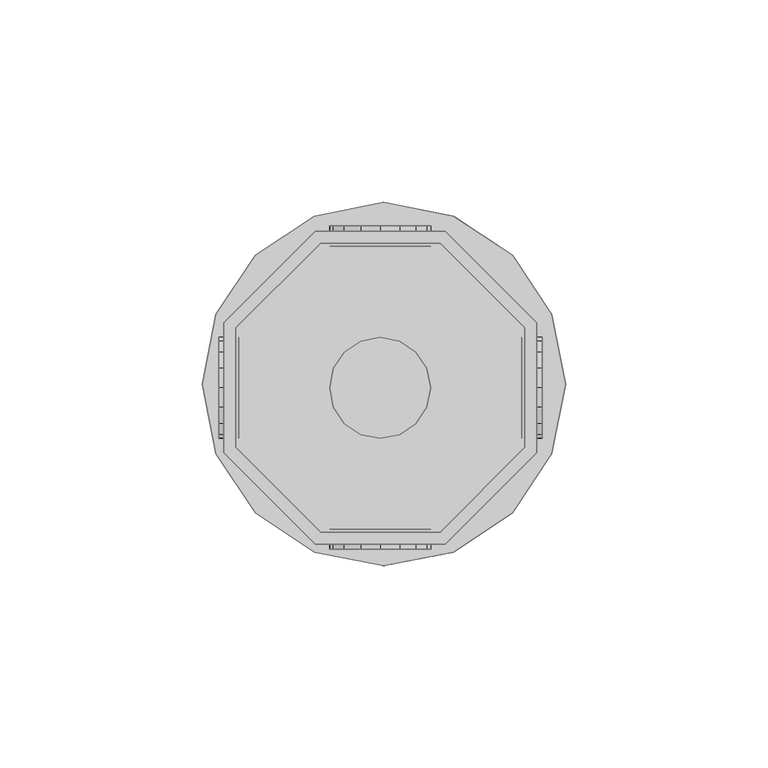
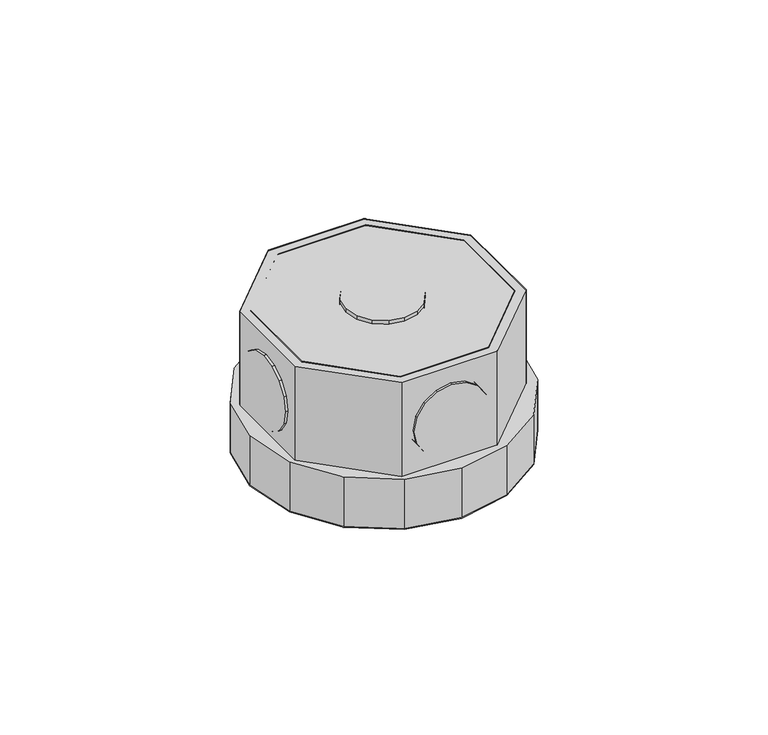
"""IFC4 building model written with IfcOpenShell, lengths in millimetres: light fixture geometry,  213512 :  213512."""

from ifc_helpers import new_model, si_unit, origin, place, context, project, spatial, triangles, source, transform, mapped, element, save


def light_fixture_797a8d72(model_context):
    return source(origin(), model_context, "Body", "Tessellation", [
        triangles([(12051.6004303, 16612.0999695, 2924.5999741), (12051.6004303, 16582.4994507, 2975.400071), (12051.6004303, 16582.4994507, 2924.5999741), (12051.6004303, 16612.0999695, 2975.400071), (12126.1005341, 16613.2998962, 2924.5999741), (12126.1005341, 16581.19953, 2975.400071), (12126.1005341, 16581.19953, 2924.5999741), (12126.1005341, 16613.2998962, 2975.400071), (12072.6003113, 16561.4995697, 2975.400071), (12072.6003113, 16561.4995697, 2924.5999741), (12103.3995941, 16635.9996735, 2924.5999741), (12103.3995941, 16635.9996735, 2975.400071), (12102.1996674, 16561.4995697, 2975.400071), (12102.1996674, 16561.4995697, 2924.5999741), (12071.3003906, 16635.9996735, 2924.5999741), (12071.3003906, 16635.9996735, 2975.400071), (12123.0995544, 16582.4994507, 2975.400071), (12123.0995544, 16582.4994507, 2924.5999741), (12048.5994507, 16613.2998962, 2924.5999741), (12048.5994507, 16613.2998962, 2975.400071), (12123.0995544, 16612.0999695, 2924.5999741), (12123.0995544, 16612.0999695, 2975.400071), (12048.5994507, 16581.19953, 2975.400071), (12048.5994507, 16581.19953, 2924.5999741), (12102.1996674, 16632.9998566, 2924.5999741), (12102.1996674, 16632.9998566, 2975.400071), (12071.3003906, 16558.4997528, 2975.400071), (12071.3003906, 16558.4997528, 2924.5999741), (12103.3995941, 16558.4997528, 2975.400071), (12072.6003113, 16632.9998566, 2975.400071), (12072.6003113, 16632.9998566, 2924.5999741), (12103.3995941, 16558.4997528, 2924.5999741), (12102.1996674, 16561.4995697, 2972.3999634), (12123.0995544, 16582.4994507, 2972.3999634), (12123.0995544, 16612.0999695, 2972.3999634), (12102.1996674, 16632.9998566, 2972.3999634), (12072.6003113, 16632.9998566, 2972.3999634), (12051.6004303, 16612.0999695, 2972.3999634), (12051.6004303, 16582.4994507, 2972.3999634), (12072.6003113, 16561.4995697, 2972.3999634), (12071.3003906, 16558.4997528, 2942.4000504), (12048.5994507, 16581.19953, 2942.4000504), (12048.5994507, 16613.2998962, 2942.4000504), (12071.3003906, 16635.9996735, 2942.4000504), (12103.3995941, 16635.9996735, 2942.4000504), (12126.1005341, 16613.2998962, 2942.4000504), (12126.1005341, 16581.19953, 2942.4000504), (12103.3995941, 16558.4997528, 2942.4000504), (12129.8003082, 16580.8995483, 2942.4000504), (12105.4994659, 16556.5998688, 2942.4000504), (12120.0997375, 16566.3004395, 2942.4000504), (12088.3005157, 16553.2000763, 2942.4000504), (12071.0004089, 16556.5998688, 2942.4000504), (12056.4001373, 16566.3004395, 2942.4000504), (12046.6995667, 16580.8995483, 2942.4000504), (12043.2997742, 16598.1996552, 2942.4000504), (12046.6995667, 16615.3997681, 2942.4000504), (12071.0004089, 16639.6994476, 2942.4000504), (12056.4001373, 16630.0000397, 2942.4000504), (12133.3000946, 16598.1996552, 2942.4000504), (12129.8003082, 16615.3997681, 2942.4000504), (12120.0997375, 16630.0000397, 2942.4000504), (12105.4994659, 16639.6994476, 2942.4000504), (12088.3005157, 16643.2003967, 2942.4000504), (12105.4994659, 16556.5998688, 2924.5999741), (12129.8003082, 16580.8995483, 2924.5999741), (12120.0997375, 16566.3004395, 2924.5999741), (12088.3005157, 16553.2000763, 2924.5999741), (12071.0004089, 16556.5998688, 2924.5999741), (12056.4001373, 16566.3004395, 2924.5999741), (12046.6995667, 16580.8995483, 2924.5999741), (12043.2997742, 16598.1996552, 2924.5999741), (12046.6995667, 16615.3997681, 2924.5999741), (12071.0004089, 16639.6994476, 2924.5999741), (12056.4001373, 16630.0000397, 2924.5999741), (12133.3000946, 16598.1996552, 2924.5999741), (12129.8003082, 16615.3997681, 2924.5999741), (12120.0997375, 16630.0000397, 2924.5999741), (12105.4994659, 16639.6994476, 2924.5999741), (12088.3005157, 16643.2003967, 2924.5999741), (12047.3995239, 16585.7004181, 2952.6000092), (12047.3995239, 16592.5000031, 2945.9001274), (12047.3995239, 16588.4002533, 2948.5999626), (12047.3995239, 16584.800473, 2957.4000069), (12047.3995239, 16597.2997101, 2944.8998978), (12047.3995239, 16585.7004181, 2962.2000046), (12047.3995239, 16602.1005798, 2945.9001274), (12047.3995239, 16588.4002533, 2966.2000511), (12047.3995239, 16606.1003357, 2948.5999626), (12047.3995239, 16592.5000031, 2968.8998863), (12047.3995239, 16608.8001709, 2952.6000092), (12047.3995239, 16597.2997101, 2969.900116), (12047.3995239, 16609.8001099, 2957.4000069), (12047.3995239, 16602.1005798, 2968.8998863), (12047.3995239, 16608.8001709, 2962.2000046), (12047.3995239, 16606.1003357, 2966.2000511), (12052.4003815, 16592.5000031, 2945.9001274), (12052.4003815, 16585.7004181, 2952.6000092), (12052.4003815, 16588.4002533, 2948.5999626), (12052.4003815, 16597.2997101, 2944.8998978), (12052.4003815, 16584.800473, 2957.4000069), (12052.4003815, 16602.1005798, 2945.9001274), (12052.4003815, 16585.7004181, 2962.2000046), (12052.4003815, 16606.1003357, 2948.5999626), (12052.4003815, 16588.4002533, 2966.2000511), (12052.4003815, 16592.5000031, 2968.8998863), (12052.4003815, 16608.8001709, 2952.6000092), (12052.4003815, 16597.2997101, 2969.900116), (12052.4003815, 16609.8001099, 2957.4000069), (12052.4003815, 16602.1005798, 2968.8998863), (12052.4003815, 16608.8001709, 2962.2000046), (12052.4003815, 16606.1003357, 2966.2000511), (12122.3995972, 16585.7004181, 2952.6000092), (12122.3995972, 16592.5000031, 2945.9001274), (12122.3995972, 16588.4002533, 2948.5999626), (12122.3995972, 16584.800473, 2957.4000069), (12122.3995972, 16597.2997101, 2944.8998978), (12122.3995972, 16585.7004181, 2962.2000046), (12122.3995972, 16602.1005798, 2945.9001274), (12122.3995972, 16588.4002533, 2966.2000511), (12122.3995972, 16606.1003357, 2948.5999626), (12122.3995972, 16592.5000031, 2968.8998863), (12122.3995972, 16608.8001709, 2952.6000092), (12122.3995972, 16597.2997101, 2969.900116), (12122.3995972, 16609.8001099, 2957.4000069), (12122.3995972, 16602.1005798, 2968.8998863), (12122.3995972, 16608.8001709, 2962.2000046), (12122.3995972, 16606.1003357, 2966.2000511), (12127.4004547, 16592.5000031, 2945.9001274), (12127.4004547, 16585.7004181, 2952.6000092), (12127.4004547, 16588.4002533, 2948.5999626), (12127.4004547, 16597.2997101, 2944.8998978), (12127.4004547, 16584.800473, 2957.4000069), (12127.4004547, 16602.1005798, 2945.9001274), (12127.4004547, 16585.7004181, 2962.2000046), (12127.4004547, 16606.1003357, 2948.5999626), (12127.4004547, 16588.4002533, 2966.2000511), (12127.4004547, 16592.5000031, 2968.8998863), (12127.4004547, 16608.8001709, 2952.6000092), (12127.4004547, 16597.2997101, 2969.900116), (12127.4004547, 16609.8001099, 2957.4000069), (12127.4004547, 16602.1005798, 2968.8998863), (12127.4004547, 16608.8001709, 2962.2000046), (12127.4004547, 16606.1003357, 2966.2000511), (12092.2002777, 16562.2995209, 2945.9001274), (12098.8998688, 16562.2995209, 2952.6000092), (12096.2000336, 16562.2995209, 2948.5999626), (12087.4005707, 16562.2995209, 2944.8998978), (12099.8998077, 16562.2995209, 2957.4000069), (12082.5997009, 16562.2995209, 2945.9001274), (12098.8998688, 16562.2995209, 2962.2000046), (12078.4999512, 16562.2995209, 2948.5999626), (12096.2000336, 16562.2995209, 2966.2000511), (12092.2002777, 16562.2995209, 2968.8998863), (12075.800116, 16562.2995209, 2952.6000092), (12087.4005707, 16562.2995209, 2969.900116), (12074.9001709, 16562.2995209, 2957.4000069), (12082.5997009, 16562.2995209, 2968.8998863), (12075.800116, 16562.2995209, 2962.2000046), (12078.4999512, 16562.2995209, 2966.2000511), (12098.8998688, 16557.299826, 2952.6000092), (12092.2002777, 16557.299826, 2945.9001274), (12096.2000336, 16557.299826, 2948.5999626), (12099.8998077, 16557.299826, 2957.4000069), (12087.4005707, 16557.299826, 2944.8998978), (12098.8998688, 16557.299826, 2962.2000046), (12082.5997009, 16557.299826, 2945.9001274), (12096.2000336, 16557.299826, 2966.2000511), (12078.4999512, 16557.299826, 2948.5999626), (12092.2002777, 16557.299826, 2968.8998863), (12075.800116, 16557.299826, 2952.6000092), (12087.4005707, 16557.299826, 2969.900116), (12074.9001709, 16557.299826, 2957.4000069), (12082.5997009, 16557.299826, 2968.8998863), (12075.800116, 16557.299826, 2962.2000046), (12078.4999512, 16557.299826, 2966.2000511), (12092.2002777, 16637.2995941, 2945.9001274), (12098.8998688, 16637.2995941, 2952.6000092), (12096.2000336, 16637.2995941, 2948.5999626), (12087.4005707, 16637.2995941, 2944.8998978), (12099.8998077, 16637.2995941, 2957.4000069), (12082.5997009, 16637.2995941, 2945.9001274), (12098.8998688, 16637.2995941, 2962.2000046), (12078.4999512, 16637.2995941, 2948.5999626), (12096.2000336, 16637.2995941, 2966.2000511), (12092.2002777, 16637.2995941, 2968.8998863), (12075.800116, 16637.2995941, 2952.6000092), (12087.4005707, 16637.2995941, 2969.900116), (12074.9001709, 16637.2995941, 2957.4000069), (12082.5997009, 16637.2995941, 2968.8998863), (12075.800116, 16637.2995941, 2962.2000046), (12078.4999512, 16637.2995941, 2966.2000511), (12098.8998688, 16632.2998993, 2952.6000092), (12092.2002777, 16632.2998993, 2945.9001274), (12096.2000336, 16632.2998993, 2948.5999626), (12099.8998077, 16632.2998993, 2957.4000069), (12087.4005707, 16632.2998993, 2944.8998978), (12098.8998688, 16632.2998993, 2962.2000046), (12082.5997009, 16632.2998993, 2945.9001274), (12096.2000336, 16632.2998993, 2966.2000511), (12078.4999512, 16632.2998993, 2948.5999626), (12092.2002777, 16632.2998993, 2968.8998863), (12075.800116, 16632.2998993, 2952.6000092), (12087.4005707, 16632.2998993, 2969.900116), (12074.9001709, 16632.2998993, 2957.4000069), (12082.5997009, 16632.2998993, 2968.8998863), (12075.800116, 16632.2998993, 2962.2000046), (12078.4999512, 16632.2998993, 2966.2000511), (12098.8998688, 16592.5000031, 2976.9999733), (12092.2002777, 16585.7004181, 2976.9999733), (12096.2000336, 16588.4002533, 2976.9999733), (12087.4005707, 16584.800473, 2976.9999733), (12099.8998077, 16597.2997101, 2976.9999733), (12082.5997009, 16585.7004181, 2976.9999733), (12098.8998688, 16602.1005798, 2976.9999733), (12078.4999512, 16588.4002533, 2976.9999733), (12096.2000336, 16606.1003357, 2976.9999733), (12075.800116, 16592.5000031, 2976.9999733), (12092.2002777, 16608.8001709, 2976.9999733), (12074.9001709, 16597.2997101, 2976.9999733), (12087.4005707, 16609.8001099, 2976.9999733), (12075.800116, 16602.1005798, 2976.9999733), (12082.5997009, 16608.8001709, 2976.9999733), (12078.4999512, 16606.1003357, 2976.9999733), (12092.2002777, 16585.7004181, 2971.9999878), (12098.8998688, 16592.5000031, 2971.9999878), (12096.2000336, 16588.4002533, 2971.9999878), (12087.4005707, 16584.800473, 2971.9999878), (12099.8998077, 16597.2997101, 2971.9999878), (12082.5997009, 16585.7004181, 2971.9999878), (12098.8998688, 16602.1005798, 2971.9999878), (12078.4999512, 16588.4002533, 2971.9999878), (12096.2000336, 16606.1003357, 2971.9999878), (12075.800116, 16592.5000031, 2971.9999878), (12092.2002777, 16608.8001709, 2971.9999878), (12074.9001709, 16597.2997101, 2971.9999878), (12087.4005707, 16609.8001099, 2971.9999878), (12075.800116, 16602.1005798, 2971.9999878), (12082.5997009, 16608.8001709, 2971.9999878), (12078.4999512, 16606.1003357, 2971.9999878)], [[1, 2, 3], [2, 1, 4], [5, 6, 7], [6, 5, 8], [3, 9, 10], [9, 3, 2], [11, 8, 5], [8, 11, 12], [10, 13, 14], [13, 10, 9], [15, 12, 11], [12, 15, 16], [14, 17, 18], [17, 14, 13], [19, 16, 15], [16, 19, 20], [17, 21, 18], [21, 17, 22], [23, 19, 24], [19, 23, 20], [22, 25, 21], [25, 22, 26], [27, 24, 28], [24, 27, 23], [6, 13, 29], [29, 13, 27], [27, 13, 9], [27, 9, 23], [23, 9, 2], [23, 2, 4], [23, 4, 20], [20, 4, 30], [8, 17, 6], [6, 17, 13], [17, 8, 22], [12, 22, 8], [22, 12, 26], [30, 26, 12], [16, 30, 12], [20, 30, 16], [30, 1, 31], [1, 30, 4], [6, 32, 7], [32, 6, 29], [32, 14, 7], [28, 14, 32], [14, 28, 10], [24, 10, 28], [10, 24, 3], [1, 3, 24], [19, 1, 24], [31, 1, 19], [7, 18, 5], [14, 18, 7], [5, 18, 21], [5, 21, 11], [11, 21, 25], [11, 25, 31], [11, 31, 15], [15, 31, 19], [26, 31, 25], [31, 26, 30], [29, 28, 32], [28, 29, 27], [17, 33, 34], [33, 17, 13], [35, 17, 34], [17, 35, 22], [36, 22, 35], [22, 36, 26], [37, 26, 36], [26, 37, 30], [38, 30, 37], [30, 38, 4], [2, 38, 39], [38, 2, 4], [17, 9, 13], [9, 17, 22], [9, 22, 2], [2, 22, 26], [2, 26, 4], [4, 26, 30], [13, 40, 33], [40, 13, 9], [40, 34, 33], [35, 34, 40], [35, 40, 39], [35, 39, 36], [36, 39, 38], [36, 38, 37], [9, 39, 40], [39, 9, 2], [24, 41, 28], [41, 24, 42], [19, 42, 24], [42, 19, 43], [44, 19, 15], [19, 44, 43], [45, 15, 11], [15, 45, 44], [46, 11, 5], [11, 46, 45], [47, 5, 7], [5, 47, 46], [32, 47, 7], [47, 32, 48], [28, 48, 32], [48, 28, 41], [49, 50, 51], [48, 50, 49], [50, 48, 52], [41, 52, 48], [52, 41, 53], [53, 41, 54], [42, 54, 41], [54, 42, 55], [55, 42, 43], [55, 43, 56], [56, 43, 57], [57, 43, 44], [57, 44, 58], [57, 58, 59], [47, 49, 60], [49, 47, 48], [47, 60, 46], [61, 46, 60], [46, 61, 62], [46, 62, 45], [45, 62, 63], [44, 45, 63], [44, 63, 64], [44, 64, 58], [65, 66, 67], [66, 65, 32], [68, 32, 65], [32, 68, 28], [28, 68, 69], [70, 28, 69], [28, 70, 24], [71, 24, 70], [19, 24, 71], [19, 71, 72], [73, 19, 72], [19, 73, 15], [74, 15, 73], [74, 73, 75], [76, 66, 7], [32, 7, 66], [5, 76, 7], [76, 5, 77], [77, 5, 78], [11, 78, 5], [78, 11, 79], [79, 11, 15], [79, 15, 80], [80, 15, 74], [57, 75, 73], [75, 57, 59], [56, 73, 72], [73, 56, 57], [55, 72, 71], [72, 55, 56], [54, 71, 70], [71, 54, 55], [53, 70, 69], [70, 53, 54], [52, 69, 68], [69, 52, 53], [50, 68, 65], [68, 50, 52], [51, 65, 67], [65, 51, 50], [66, 51, 67], [51, 66, 49], [76, 49, 66], [49, 76, 60], [77, 60, 76], [60, 77, 61], [78, 61, 77], [61, 78, 62], [79, 62, 78], [62, 79, 63], [80, 63, 79], [63, 80, 64], [75, 58, 74], [58, 75, 59], [74, 64, 80], [64, 74, 58], [81, 82, 83], [82, 81, 84], [85, 82, 84], [85, 84, 86], [87, 85, 86], [87, 86, 88], [87, 88, 89], [89, 88, 90], [89, 90, 91], [91, 90, 92], [91, 92, 93], [93, 92, 94], [93, 94, 95], [95, 94, 96], [97, 98, 99], [98, 97, 100], [101, 98, 100], [101, 100, 102], [103, 101, 102], [103, 102, 104], [103, 104, 105], [105, 104, 106], [106, 104, 107], [106, 107, 108], [108, 107, 109], [108, 109, 110], [110, 109, 111], [110, 111, 112], [87, 104, 102], [104, 87, 89], [85, 102, 100], [102, 85, 87], [82, 100, 97], [100, 82, 85], [83, 97, 99], [97, 83, 82], [98, 83, 99], [83, 98, 81], [101, 81, 98], [81, 101, 84], [103, 84, 101], [84, 103, 86], [105, 86, 103], [86, 105, 88], [106, 88, 105], [88, 106, 90], [108, 90, 106], [90, 108, 92], [110, 92, 108], [92, 110, 94], [112, 94, 110], [94, 112, 96], [95, 112, 111], [112, 95, 96], [93, 111, 109], [111, 93, 95], [89, 107, 104], [107, 89, 91], [91, 109, 107], [109, 91, 93], [113, 114, 115], [114, 113, 116], [117, 114, 116], [117, 116, 118], [119, 117, 118], [119, 118, 120], [119, 120, 121], [121, 120, 122], [121, 122, 123], [123, 122, 124], [123, 124, 125], [125, 124, 126], [125, 126, 127], [127, 126, 128], [129, 130, 131], [130, 129, 132], [133, 130, 132], [133, 132, 134], [135, 133, 134], [135, 134, 136], [135, 136, 137], [137, 136, 138], [138, 136, 139], [138, 139, 140], [140, 139, 141], [140, 141, 142], [142, 141, 143], [142, 143, 144], [119, 136, 134], [136, 119, 121], [117, 134, 132], [134, 117, 119], [114, 132, 129], [132, 114, 117], [115, 129, 131], [129, 115, 114], [130, 115, 131], [115, 130, 113], [133, 113, 130], [113, 133, 116], [135, 116, 133], [116, 135, 118], [137, 118, 135], [118, 137, 120], [138, 120, 137], [120, 138, 122], [140, 122, 138], [122, 140, 124], [142, 124, 140], [124, 142, 126], [144, 126, 142], [126, 144, 128], [127, 144, 143], [144, 127, 128], [125, 143, 141], [143, 125, 127], [121, 139, 136], [139, 121, 123], [123, 141, 139], [141, 123, 125], [145, 146, 147], [146, 145, 148], [149, 146, 148], [149, 148, 150], [151, 149, 150], [151, 150, 152], [151, 152, 153], [153, 152, 154], [154, 152, 155], [154, 155, 156], [156, 155, 157], [156, 157, 158], [158, 157, 159], [158, 159, 160], [161, 162, 163], [162, 161, 164], [165, 162, 164], [165, 164, 166], [167, 165, 166], [167, 166, 168], [169, 167, 168], [169, 168, 170], [169, 170, 171], [171, 170, 172], [171, 172, 173], [173, 172, 174], [173, 174, 175], [175, 174, 176], [158, 176, 174], [176, 158, 160], [156, 174, 172], [174, 156, 158], [154, 172, 170], [172, 154, 156], [153, 170, 168], [170, 153, 154], [151, 168, 166], [168, 151, 153], [149, 166, 164], [166, 149, 151], [146, 164, 161], [164, 146, 149], [147, 161, 163], [161, 147, 146], [162, 147, 163], [147, 162, 145], [165, 145, 162], [145, 165, 148], [167, 148, 165], [148, 167, 150], [169, 150, 167], [150, 169, 152], [171, 152, 169], [152, 171, 155], [173, 155, 171], [155, 173, 157], [176, 159, 175], [159, 176, 160], [175, 157, 173], [157, 175, 159], [177, 178, 179], [178, 177, 180], [181, 178, 180], [181, 180, 182], [183, 181, 182], [183, 182, 184], [183, 184, 185], [185, 184, 186], [186, 184, 187], [186, 187, 188], [188, 187, 189], [188, 189, 190], [190, 189, 191], [190, 191, 192], [193, 194, 195], [194, 193, 196], [197, 194, 196], [197, 196, 198], [199, 197, 198], [199, 198, 200], [201, 199, 200], [201, 200, 202], [201, 202, 203], [203, 202, 204], [203, 204, 205], [205, 204, 206], [205, 206, 207], [207, 206, 208], [190, 208, 206], [208, 190, 192], [188, 206, 204], [206, 188, 190], [186, 204, 202], [204, 186, 188], [185, 202, 200], [202, 185, 186], [183, 200, 198], [200, 183, 185], [181, 198, 196], [198, 181, 183], [178, 196, 193], [196, 178, 181], [179, 193, 195], [193, 179, 178], [194, 179, 195], [179, 194, 177], [197, 177, 194], [177, 197, 180], [199, 180, 197], [180, 199, 182], [201, 182, 199], [182, 201, 184], [203, 184, 201], [184, 203, 187], [205, 187, 203], [187, 205, 189], [208, 191, 207], [191, 208, 192], [207, 189, 205], [189, 207, 191], [209, 210, 211], [212, 210, 209], [212, 209, 213], [214, 212, 213], [214, 213, 215], [216, 214, 215], [216, 215, 217], [216, 217, 218], [218, 217, 219], [218, 219, 220], [220, 219, 221], [220, 221, 222], [222, 221, 223], [222, 223, 224], [225, 226, 227], [226, 225, 228], [229, 226, 228], [229, 228, 230], [231, 229, 230], [231, 230, 232], [231, 232, 233], [233, 232, 234], [233, 234, 235], [235, 234, 236], [235, 236, 237], [237, 236, 238], [237, 238, 239], [239, 238, 240], [222, 240, 238], [240, 222, 224], [220, 238, 236], [238, 220, 222], [218, 236, 234], [236, 218, 220], [216, 234, 232], [234, 216, 218], [214, 232, 230], [232, 214, 216], [212, 230, 228], [230, 212, 214], [210, 228, 225], [228, 210, 212], [211, 225, 227], [225, 211, 210], [226, 211, 227], [211, 226, 209], [229, 209, 226], [209, 229, 213], [231, 213, 229], [213, 231, 215], [233, 215, 231], [215, 233, 217], [235, 217, 233], [217, 235, 219], [237, 219, 235], [219, 237, 221], [240, 223, 239], [223, 240, 224], [239, 221, 237], [221, 239, 223]], closed=False),
    ])


if __name__ == "__main__":
    model = new_model("IFC4")
    model_context = context("Model", 3, world=origin())
    ifc_project = project(units=[si_unit("LENGTHUNIT", "METRE", prefix="MILLI")], contexts=[model_context])
    site = spatial("IfcSite", under=ifc_project)
    building = spatial("IfcBuilding", under=site)
    placement = place(None, origin())
    light_fixture_shape = light_fixture_797a8d72(model_context)
    element("IfcLightFixture", 1, ObjectType=" 213512 :  213512", at=placement, inside=building, context=model_context, shape_type="MappedRepresentation", body=[
        mapped(light_fixture_shape, transform((0.0, 0.0, 0.0), x_axis=(1.0, 0.0, 0.0), y_axis=(0.0, 1.0, 0.0), z_axis=(0.0, 0.0, 1.0))),
    ])
    save(model, "model.ifc")
